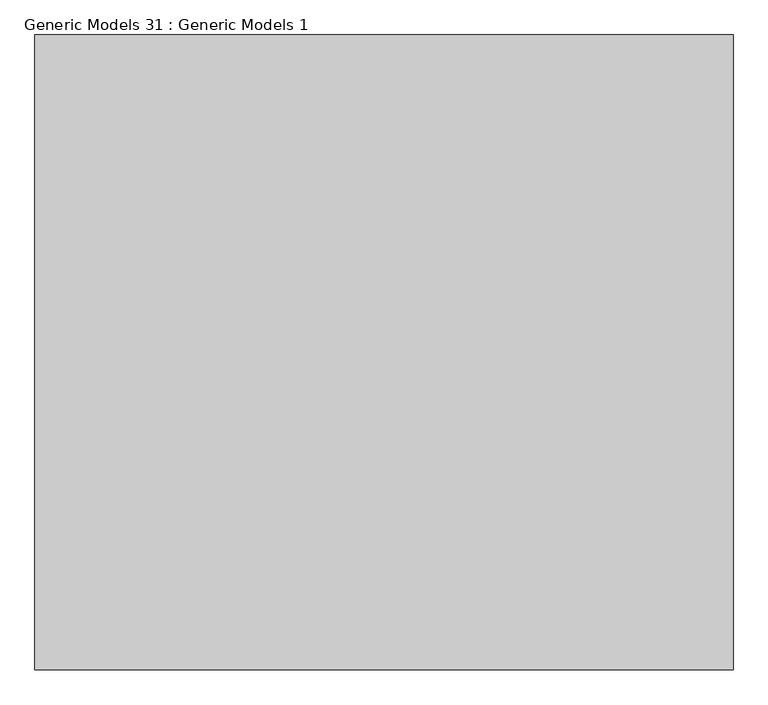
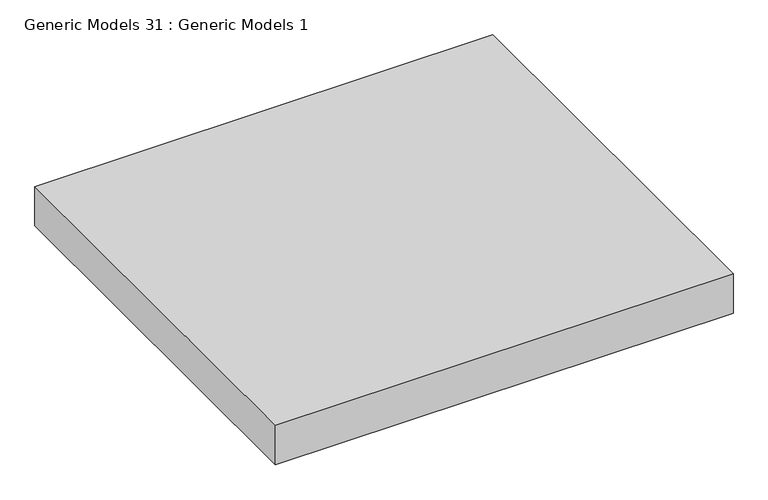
"""IFC4 building model written with IfcOpenShell, lengths in millimetres: proxy geometry, Generic Models 31 : Generic Models 1."""

from ifc_helpers import new_model, si_unit, origin, origin_with_axes, place, context, project, spatial, polyline, outline, extrude, source, transform, mapped, element, save


def generic_models_31_generic_models_1_fca05ee6(model_context):
    return source(origin(), model_context, "Body", "SweptSolid", [
        extrude(outline(polyline([(7941.0810265, -4286.5772826), (7941.0810265, -3286.5772826), (9041.0810265, -3286.5772826), (9041.0810265, -4286.5772826), (7941.0810265, -4286.5772826)])), origin_with_axes(), (0.0, 0.0, 1.0), 100.0),
    ])


if __name__ == "__main__":
    model = new_model("IFC4")
    model_context = context("Model", 3, world=origin())
    ifc_project = project(units=[si_unit("LENGTHUNIT", "METRE", prefix="MILLI")], contexts=[model_context])
    site = spatial("IfcSite", under=ifc_project)
    building = spatial("IfcBuilding", under=site)
    placement = place(None, origin())
    generic_models_31_generic_models_1_shape = generic_models_31_generic_models_1_fca05ee6(model_context)
    element("IfcBuildingElementProxy", 1, Name="Generic Models 31 : Generic Models 1", ObjectType="Generic Models 31 : Generic Models 1", at=placement, inside=building, context=model_context, shape_type="MappedRepresentation", body=[
        mapped(generic_models_31_generic_models_1_shape, transform((0.0, 0.0, 0.0), x_axis=(1.0, 0.0, 0.0), y_axis=(0.0, 1.0, 0.0), z_axis=(0.0, 0.0, 1.0))),
    ])
    save(model, "model.ifc")
